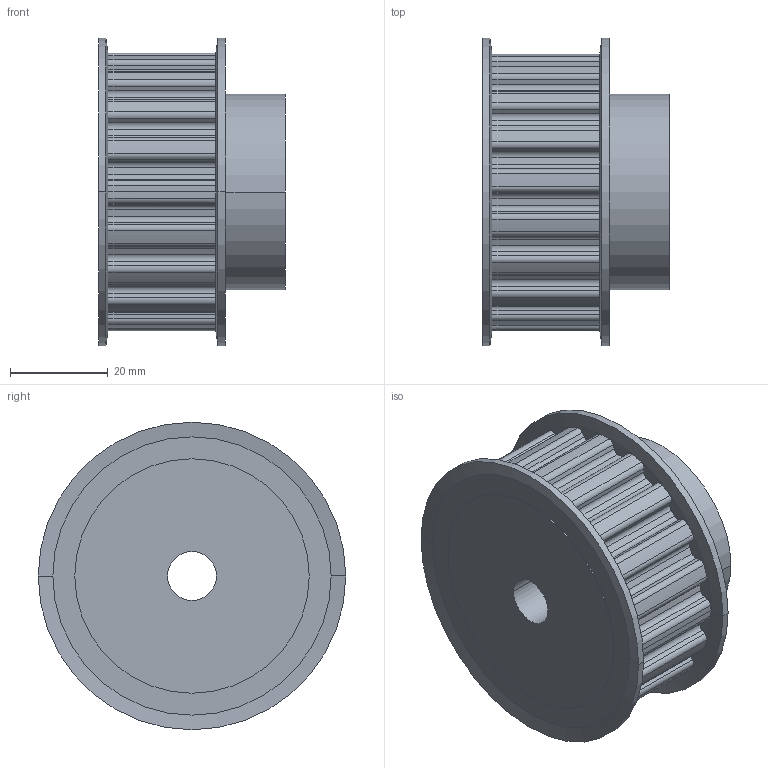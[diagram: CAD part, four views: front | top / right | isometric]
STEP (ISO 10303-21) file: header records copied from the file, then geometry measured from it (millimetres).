
FILE_DESCRIPTION( ( '' ), '1' );
FILE_NAME( 'C:/Users/Stangenbergd/Documents/CAD_Step/1/18221900.stp', '2021-10-19T10:37:21', ( '' ), ( '' ), ' ', ' ', ' ' );
FILE_SCHEMA( ( 'CONFIG_CONTROL_DESIGN' ) );
Length unit declared in the file: millimetre
Products named in the file (1): 1
Bounding box: 38.27 x 63 x 63 mm (x, y, z)
Volume: 74356.7 mm3; surface area: 16121.2 mm2
Topology: 1 solids, 1 shells, 180 faces, 511 edges, 338 vertices
Faces by surface type: cylinder 108, plane 64, cone 8
Entity records: 5983 total; most frequent: DIRECTION 1097, CARTESIAN_POINT 1030, ORIENTED_EDGE 1022, EDGE_CURVE 511, AXIS2_PLACEMENT_3D 405, VERTEX_POINT 338, LINE 287, VECTOR 287
